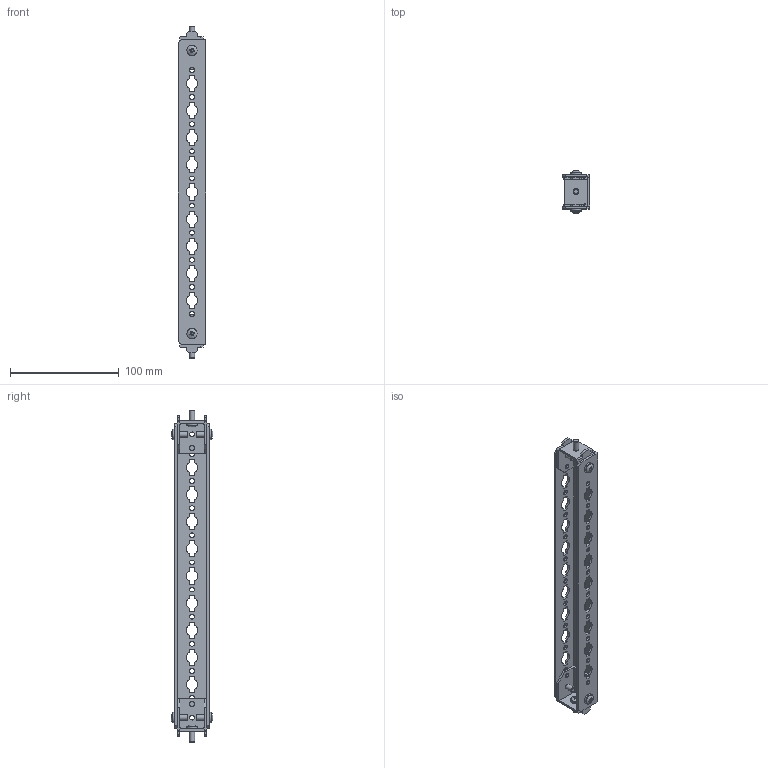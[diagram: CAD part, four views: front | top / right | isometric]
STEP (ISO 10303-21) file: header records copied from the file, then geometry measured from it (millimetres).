
FILE_DESCRIPTION(('Open CASCADE Model'),'2;1');
FILE_NAME('Open CASCADE Shape Model','2025-02-21T09:28:27',('Author'),( 'Open CASCADE'),'Open CASCADE STEP processor 7.8','Open CASCADE 7.8' ,'Unknown');
FILE_SCHEMA(('AUTOMOTIVE_DESIGN { 1 0 10303 214 1 1 1 1 }'));
Length unit declared in the file: millimetre
Products named in the file (4): Compound1; Solid1; Solid2; Solid3
Assembly tree (9 placements, depth 2):
  Compound1
    Solid1
    Solid2  x2
    Solid3  x6
Bounding box: 25 x 38.62 x 306 mm (x, y, z)
Volume: 48311 mm3; surface area: 54482.9 mm2
Topology: 9 solids, 9 shells, 696 faces, 1989 edges, 1317 vertices
Faces by surface type: cylinder 332, plane 328, torus 12, cone 12, sphere 6, bspline 6
Full cylindrical faces by diameter (mm): 4.4 x30, 4.5 x12, 5 x6, 5.5 x2, 6 x6, 9.5 x6
Entity records: 19842 total; most frequent: CARTESIAN_POINT 3787, DIRECTION 3424, ORIENTED_EDGE 3354, EDGE_CURVE 1677, AXIS2_PLACEMENT_3D 1235, VERTEX_POINT 1124, LINE 954, VECTOR 954
